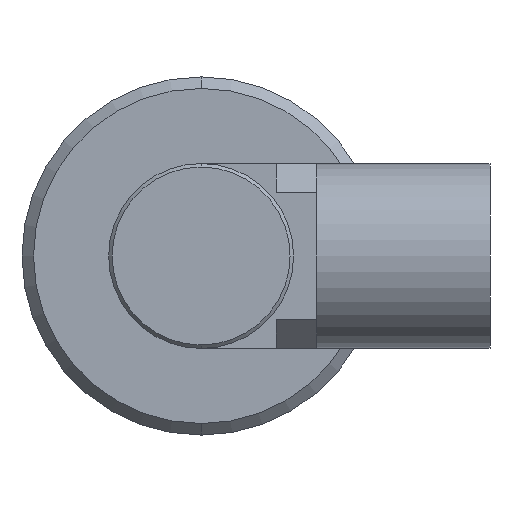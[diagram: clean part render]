
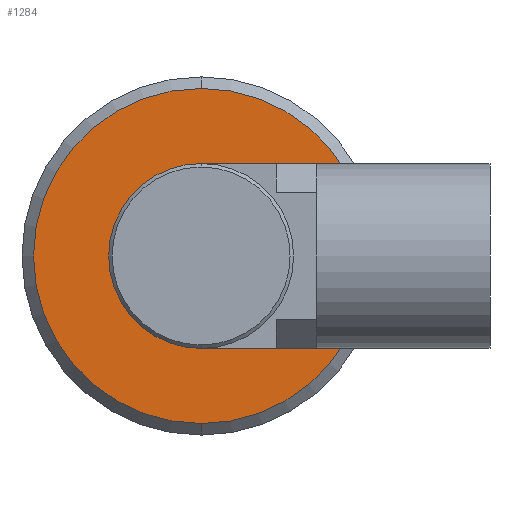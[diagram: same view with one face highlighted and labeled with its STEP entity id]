
A CAD part, left-side view. The second image highlights one B-rep face of the part: STEP entity #1284.
In plain terms, the highlighted planar face has unit normal (-1, 0, 0).
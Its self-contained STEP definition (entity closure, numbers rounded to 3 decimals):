
#22 = DIRECTION ( 'NONE',  ( 0., 0., 1. ) ) ;
#37 = PLANE ( 'NONE',  #261 ) ;
#78 = VERTEX_POINT ( 'NONE', #659 ) ;
#88 = CARTESIAN_POINT ( 'NONE',  ( -24.026, 0., -14.5 ) ) ;
#103 = ORIENTED_EDGE ( 'NONE', *, *, #1170, .T. ) ;
#146 = DIRECTION ( 'NONE',  ( -1., 0., 0. ) ) ;
#152 = FACE_BOUND ( 'NONE', #834, .T. ) ;
#158 = FACE_OUTER_BOUND ( 'NONE', #943, .T. ) ;
#201 = ORIENTED_EDGE ( 'NONE', *, *, #520, .T. ) ;
#261 = AXIS2_PLACEMENT_3D ( 'NONE', #1296, #1095, #778 ) ;
#284 = CIRCLE ( 'NONE', #608, 8. ) ;
#329 = VERTEX_POINT ( 'NONE', #88 ) ;
#354 = AXIS2_PLACEMENT_3D ( 'NONE', #1160, #715, #950 ) ;
#421 = VERTEX_POINT ( 'NONE', #979 ) ;
#520 = EDGE_CURVE ( 'NONE', #946, #329, #630, .T. ) ;
#533 = DIRECTION ( 'NONE',  ( -1., 0., 0. ) ) ;
#566 = CARTESIAN_POINT ( 'NONE',  ( -24.026, 0., 0. ) ) ;
#568 = DIRECTION ( 'NONE',  ( 0., 0., 1. ) ) ;
#608 = AXIS2_PLACEMENT_3D ( 'NONE', #1212, #146, #1104 ) ;
#630 = CIRCLE ( 'NONE', #984, 14.5 ) ;
#659 = CARTESIAN_POINT ( 'NONE',  ( -24.026, 0., -8. ) ) ;
#715 = DIRECTION ( 'NONE',  ( -1., 0., 0. ) ) ;
#744 = CARTESIAN_POINT ( 'NONE',  ( -24.026, 0., 14.5 ) ) ;
#778 = DIRECTION ( 'NONE',  ( 0., 0., -1. ) ) ;
#823 = ORIENTED_EDGE ( 'NONE', *, *, #925, .F. ) ;
#834 = EDGE_LOOP ( 'NONE', ( #1355, #823 ) ) ;
#876 = CARTESIAN_POINT ( 'NONE',  ( -24.026, 0., 0. ) ) ;
#906 = CIRCLE ( 'NONE', #1128, 8. ) ;
#925 = EDGE_CURVE ( 'NONE', #78, #421, #906, .T. ) ;
#943 = EDGE_LOOP ( 'NONE', ( #103, #201 ) ) ;
#946 = VERTEX_POINT ( 'NONE', #744 ) ;
#950 = DIRECTION ( 'NONE',  ( 0., 0., 1. ) ) ;
#979 = CARTESIAN_POINT ( 'NONE',  ( -24.026, 0., 8. ) ) ;
#984 = AXIS2_PLACEMENT_3D ( 'NONE', #876, #1072, #568 ) ;
#1072 = DIRECTION ( 'NONE',  ( -1., 0., 0. ) ) ;
#1095 = DIRECTION ( 'NONE',  ( 1., 0., 0. ) ) ;
#1104 = DIRECTION ( 'NONE',  ( 0., 0., 1. ) ) ;
#1128 = AXIS2_PLACEMENT_3D ( 'NONE', #566, #533, #22 ) ;
#1160 = CARTESIAN_POINT ( 'NONE',  ( -24.026, 0., 0. ) ) ;
#1170 = EDGE_CURVE ( 'NONE', #329, #946, #1218, .T. ) ;
#1212 = CARTESIAN_POINT ( 'NONE',  ( -24.026, 0., 0. ) ) ;
#1218 = CIRCLE ( 'NONE', #354, 14.5 ) ;
#1284 = ADVANCED_FACE ( 'NONE', ( #152, #158 ), #37, .F. ) ;
#1296 = CARTESIAN_POINT ( 'NONE',  ( -24.026, 8., 0. ) ) ;
#1298 = EDGE_CURVE ( 'NONE', #421, #78, #284, .T. ) ;
#1355 = ORIENTED_EDGE ( 'NONE', *, *, #1298, .F. ) ;
